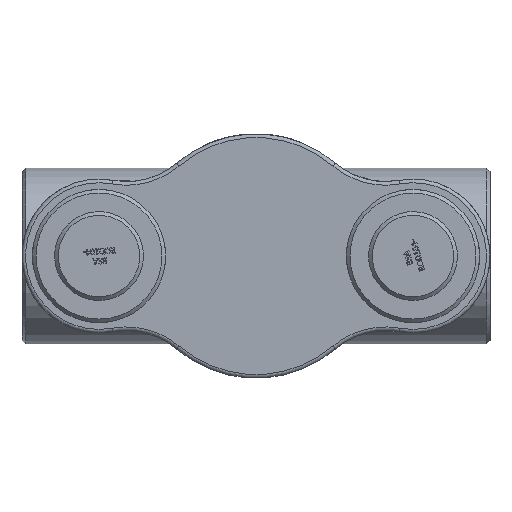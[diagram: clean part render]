
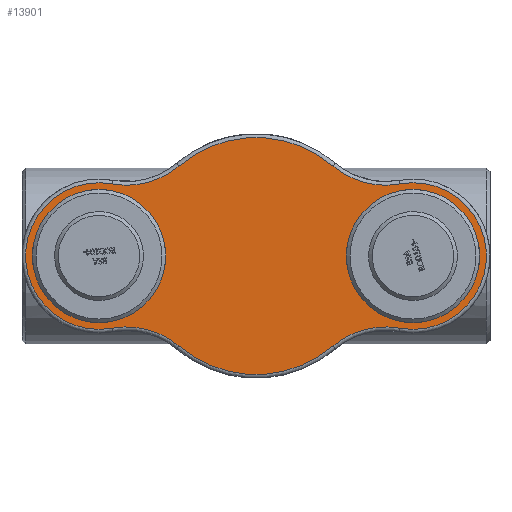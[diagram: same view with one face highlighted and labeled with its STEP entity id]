
A CAD part, front view. The second image highlights one B-rep face of the part: STEP entity #13901.
In plain terms, the highlighted planar face has unit normal (0, -1, 0) as drawn and (0, 0, -1) by its records, which use the part's own axes.
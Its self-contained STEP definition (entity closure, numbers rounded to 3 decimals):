
#3636=PLANE('',#14803);
#4066=FACE_BOUND('',#4985,.T.);
#4067=FACE_BOUND('',#4986,.T.);
#4171=FACE_OUTER_BOUND('',#4984,.T.);
#4984=EDGE_LOOP('',(#9632,#9633,#9634,#9635,#9636,#9637,#9638,#9639));
#4985=EDGE_LOOP('',(#9640));
#4986=EDGE_LOOP('',(#9641));
#5900=CIRCLE('',#14802,67.5);
#5901=CIRCLE('',#14804,99.);
#5902=CIRCLE('',#14805,109.);
#5903=CIRCLE('',#14806,160.);
#5904=CIRCLE('',#14807,109.);
#5905=CIRCLE('',#14808,99.);
#5906=CIRCLE('',#14809,109.);
#5907=CIRCLE('',#14810,160.);
#5908=CIRCLE('',#14811,109.);
#5909=CIRCLE('',#14812,67.5);
#6090=VERTEX_POINT('',#18347);
#6091=VERTEX_POINT('',#18350);
#6092=VERTEX_POINT('',#18351);
#6093=VERTEX_POINT('',#18353);
#6094=VERTEX_POINT('',#18355);
#6095=VERTEX_POINT('',#18357);
#6096=VERTEX_POINT('',#18359);
#6097=VERTEX_POINT('',#18361);
#6098=VERTEX_POINT('',#18363);
#6099=VERTEX_POINT('',#18366);
#7506=EDGE_CURVE('',#6090,#6090,#5900,.T.);
#7507=EDGE_CURVE('',#6091,#6092,#5901,.T.);
#7508=EDGE_CURVE('',#6093,#6091,#5902,.T.);
#7509=EDGE_CURVE('',#6094,#6093,#5903,.T.);
#7510=EDGE_CURVE('',#6095,#6094,#5904,.T.);
#7511=EDGE_CURVE('',#6096,#6095,#5905,.T.);
#7512=EDGE_CURVE('',#6097,#6096,#5906,.T.);
#7513=EDGE_CURVE('',#6098,#6097,#5907,.T.);
#7514=EDGE_CURVE('',#6092,#6098,#5908,.T.);
#7515=EDGE_CURVE('',#6099,#6099,#5909,.T.);
#9632=ORIENTED_EDGE('',*,*,#7507,.F.);
#9633=ORIENTED_EDGE('',*,*,#7508,.F.);
#9634=ORIENTED_EDGE('',*,*,#7509,.F.);
#9635=ORIENTED_EDGE('',*,*,#7510,.F.);
#9636=ORIENTED_EDGE('',*,*,#7511,.F.);
#9637=ORIENTED_EDGE('',*,*,#7512,.F.);
#9638=ORIENTED_EDGE('',*,*,#7513,.F.);
#9639=ORIENTED_EDGE('',*,*,#7514,.F.);
#9640=ORIENTED_EDGE('',*,*,#7515,.F.);
#9641=ORIENTED_EDGE('',*,*,#7506,.F.);
#13901=ADVANCED_FACE('',(#4171,#4066,#4067),#3636,.F.);
#14802=AXIS2_PLACEMENT_3D('',#18348,#15561,#15562);
#14803=AXIS2_PLACEMENT_3D('',#18349,#15563,#15564);
#14804=AXIS2_PLACEMENT_3D('',#18352,#15565,#15566);
#14805=AXIS2_PLACEMENT_3D('',#18354,#15567,#15568);
#14806=AXIS2_PLACEMENT_3D('',#18356,#15569,#15570);
#14807=AXIS2_PLACEMENT_3D('',#18358,#15571,#15572);
#14808=AXIS2_PLACEMENT_3D('',#18360,#15573,#15574);
#14809=AXIS2_PLACEMENT_3D('',#18362,#15575,#15576);
#14810=AXIS2_PLACEMENT_3D('',#18364,#15577,#15578);
#14811=AXIS2_PLACEMENT_3D('',#18365,#15579,#15580);
#14812=AXIS2_PLACEMENT_3D('',#18367,#15581,#15582);
#15561=DIRECTION('center_axis',(0.,0.,-1.));
#15562=DIRECTION('ref_axis',(1.,0.,0.));
#15563=DIRECTION('center_axis',(0.,0.,1.));
#15564=DIRECTION('ref_axis',(1.,0.,0.));
#15565=DIRECTION('center_axis',(0.,0.,1.));
#15566=DIRECTION('ref_axis',(-1.,0.,0.));
#15567=DIRECTION('center_axis',(0.,0.,-1.));
#15568=DIRECTION('ref_axis',(0.26,-0.966,0.));
#15569=DIRECTION('center_axis',(0.,0.,1.));
#15570=DIRECTION('ref_axis',(0.,1.,0.));
#15571=DIRECTION('center_axis',(0.,0.,-1.));
#15572=DIRECTION('ref_axis',(-0.26,-0.966,0.));
#15573=DIRECTION('center_axis',(0.,0.,1.));
#15574=DIRECTION('ref_axis',(1.,0.,0.));
#15575=DIRECTION('center_axis',(0.,0.,-1.));
#15576=DIRECTION('ref_axis',(-0.26,0.966,0.));
#15577=DIRECTION('center_axis',(0.,0.,1.));
#15578=DIRECTION('ref_axis',(0.,-1.,0.));
#15579=DIRECTION('center_axis',(0.,0.,-1.));
#15580=DIRECTION('ref_axis',(0.26,0.966,0.));
#15581=DIRECTION('center_axis',(0.,0.,-1.));
#15582=DIRECTION('ref_axis',(1.,0.,0.));
#18347=CARTESIAN_POINT('',(144.5,0.,0.));
#18348=CARTESIAN_POINT('Origin',(212.,0.,0.));
#18349=CARTESIAN_POINT('Origin',(0.,0.,0.));
#18350=CARTESIAN_POINT('',(-194.211,97.389,0.));
#18351=CARTESIAN_POINT('',(-194.211,-97.389,0.));
#18352=CARTESIAN_POINT('Origin',(-212.,0.,0.));
#18353=CARTESIAN_POINT('',(-103.866,121.704,0.));
#18354=CARTESIAN_POINT('Origin',(-174.625,204.615,0.));
#18355=CARTESIAN_POINT('',(103.866,121.704,0.));
#18356=CARTESIAN_POINT('Origin',(0.,0.,0.));
#18357=CARTESIAN_POINT('',(194.211,97.389,0.));
#18358=CARTESIAN_POINT('Origin',(174.625,204.615,0.));
#18359=CARTESIAN_POINT('',(194.211,-97.389,0.));
#18360=CARTESIAN_POINT('Origin',(212.,0.,0.));
#18361=CARTESIAN_POINT('',(103.866,-121.704,0.));
#18362=CARTESIAN_POINT('Origin',(174.625,-204.615,0.));
#18363=CARTESIAN_POINT('',(-103.866,-121.704,0.));
#18364=CARTESIAN_POINT('Origin',(0.,0.,0.));
#18365=CARTESIAN_POINT('Origin',(-174.625,-204.615,0.));
#18366=CARTESIAN_POINT('',(-279.5,0.,0.));
#18367=CARTESIAN_POINT('Origin',(-212.,0.,0.));
